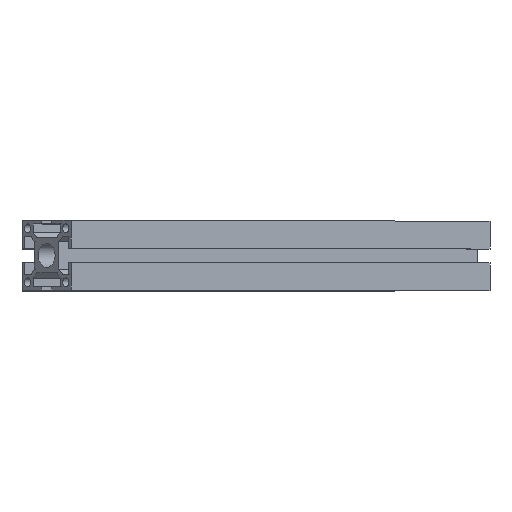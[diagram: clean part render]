
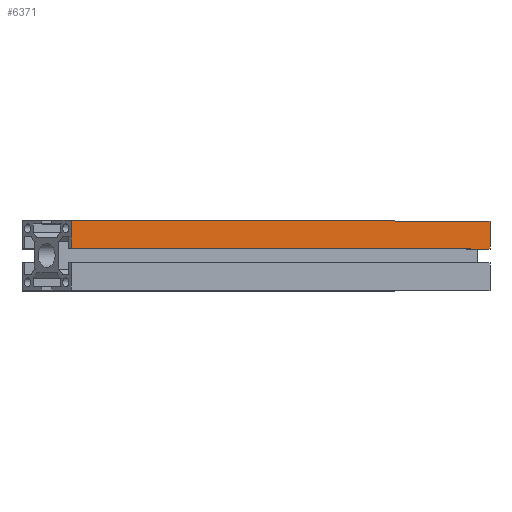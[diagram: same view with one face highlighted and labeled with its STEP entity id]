
A CAD part, top view. The second image highlights one B-rep face of the part: STEP entity #6371.
In plain terms, the highlighted planar face has unit normal (0.707, 0, 0.707) as drawn and (1, 0, 0) by its records, which use the part's own axes.
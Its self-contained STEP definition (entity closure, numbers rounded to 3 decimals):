
#4741=CARTESIAN_POINT('',(40.0,24.,0.0));
#4742=VERTEX_POINT('',#4741);
#5077=CARTESIAN_POINT('',(40.0,40.,0.0));
#5078=VERTEX_POINT('',#5077);
#5085=CARTESIAN_POINT('',(40.0,24.,0.0));
#5086=DIRECTION('',(0.0,1.0,0.0));
#5087=VECTOR('',#5086,16.0);
#5088=LINE('',#5085,#5087);
#5089=EDGE_CURVE('',#4742,#5078,#5088,.T.);
#5711=CARTESIAN_POINT('',(40.0,24.,340.));
#5712=VERTEX_POINT('',#5711);
#5719=CARTESIAN_POINT('',(40.0,40.,340.));
#5720=VERTEX_POINT('',#5719);
#5721=CARTESIAN_POINT('',(40.0,40.,340.));
#5722=DIRECTION('',(0.0,-1.0,0.0));
#5723=VECTOR('',#5722,16.0);
#5724=LINE('',#5721,#5723);
#5725=EDGE_CURVE('',#5720,#5712,#5724,.T.);
#5949=CARTESIAN_POINT('',(40.0,24.,0.0));
#5950=DIRECTION('',(0.0,0.0,1.0));
#5951=VECTOR('',#5950,340.);
#5952=LINE('',#5949,#5951);
#5953=EDGE_CURVE('',#4742,#5712,#5952,.T.);
#6351=CARTESIAN_POINT('',(40.0,40.,0.0));
#6352=DIRECTION('',(0.0,0.0,1.0));
#6353=VECTOR('',#6352,340.);
#6354=LINE('',#6351,#6353);
#6355=EDGE_CURVE('',#5078,#5720,#6354,.T.);
#6360=CARTESIAN_POINT('',(40.0,40.,-1.));
#6361=DIRECTION('',(1.0,0.0,0.0));
#6362=DIRECTION('',(0.0,0.0,-1.0));
#6363=AXIS2_PLACEMENT_3D('',#6360,#6361,#6362);
#6364=PLANE('',#6363);
#6365=ORIENTED_EDGE('',*,*,#5089,.T.);
#6366=ORIENTED_EDGE('',*,*,#6355,.T.);
#6367=ORIENTED_EDGE('',*,*,#5725,.T.);
#6368=ORIENTED_EDGE('',*,*,#5953,.F.);
#6369=EDGE_LOOP('',(#6365,#6366,#6367,#6368));
#6370=FACE_OUTER_BOUND('',#6369,.T.);
#6371=ADVANCED_FACE('',(#6370),#6364,.T.);
